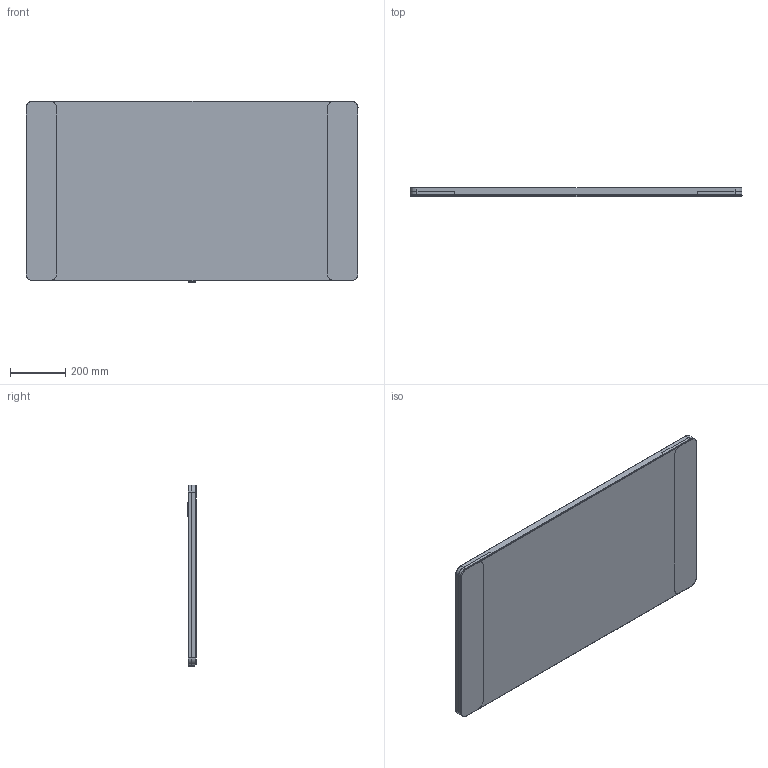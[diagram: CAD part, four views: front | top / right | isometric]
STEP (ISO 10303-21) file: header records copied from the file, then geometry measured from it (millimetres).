
FILE_DESCRIPTION(/* description */ ('STEP AP214'),/* implementation_level */ '2;1');
FILE_NAME(/* name */ 'C:\Planerdaten\Export PLA\819220000\stp\819220000.stp',/* time_stamp */ '2020-03-06T07:58:08+01:00',/* author */ (''),/* organization */ (''),/* preprocessor_version */ 'ST-DEVELOPER v16.13',/* originating_system */ 'Autodesk Inventor 2018',/* authorisation */ '');
FILE_SCHEMA (('AUTOMOTIVE_DESIGN { 1 0 10303 214 3 1 1 }'));
Length unit declared in the file: millimetre
Products named in the file (12): LiSpgl Ge+Opt B120 Bel-beids; RAMA ZEWNÊTRZNA LUSTRA 650X1200; SZYBA-LUS-1200x650-M; RAM-WEW-LUS-1200X650 (Wszystkie elementy Content Center wy³¹c
zone); PPR-PRO-25x20x1150-AL; PPR-PRO-25x20x550-AL; PPR-PRO-25x20x450-AL; zaslepka do profilu 25x20_1; HAK MONTA¯OWY; WYL-WAND-19-LED-GR (Wszystkie elementy Content Center wy³¹czo
ne); WYL-WAND-19-LED-GR; JIS B 1181 normal. Klasa 3 - Metryczny Klasa 3 normal. M16
Assembly tree (19 placements, depth 3):
  LiSpgl Ge+Opt B120 Bel-beids
    RAMA ZEWNÊTRZNA LUSTRA 650X1200
    SZYBA-LUS-1200x650-M
    RAM-WEW-LUS-1200X650 (Wszystkie elementy Content Center wy³¹c
zone)
      PPR-PRO-25x20x1150-AL
      PPR-PRO-25x20x550-AL  x2
      zaslepka do profilu 25x20_1  x6
      PPR-PRO-25x20x450-AL  x2
    HAK MONTA¯OWY  x2
    WYL-WAND-19-LED-GR (Wszystkie elementy Content Center wy³¹czo
ne)
      WYL-WAND-19-LED-GR
      JIS B 1181 normal. Klasa 3 - Metryczny Klasa 3 normal. M16
Bounding box: 1200 x 32.01 x 657.5 mm (x, y, z)
Volume: 4555634.2 mm3; surface area: 2287109.9 mm2
Topology: 17 solids, 17 shells, 423 faces, 1045 edges, 642 vertices
Faces by surface type: plane 256, cylinder 122, sphere 24, cone 21
Full cylindrical faces by diameter (mm): 4.8 x2, 6 x2, 13 x1, 15 x1, 15.5 x1, 19 x2, 19.02 x2, 22 x1
Entity records: 9337 total; most frequent: CARTESIAN_POINT 1601, DIRECTION 1554, ORIENTED_EDGE 1482, EDGE_CURVE 741, LINE 538, VECTOR 538, AXIS2_PLACEMENT_3D 508, VERTEX_POINT 483
